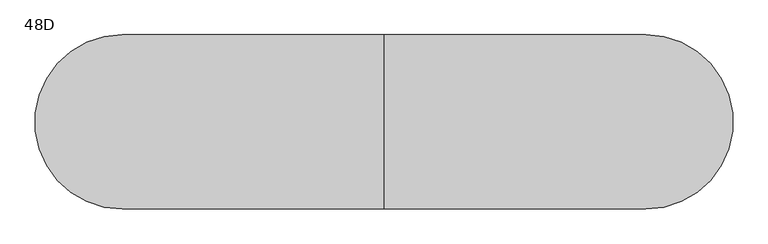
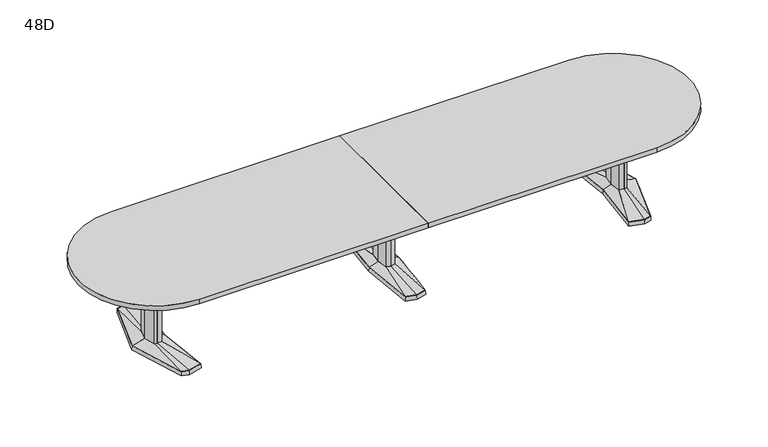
"""IFC4 building model written with IfcOpenShell, lengths in millimetres: furniture geometry, Coalesse_AM_Table_Conference_ETable2_Racetrack_16ft_AluminiumBase : 48D."""

from ifc_helpers import new_model, si_unit, point, frame, frame_2d, origin, place, context, project, spatial, polyline, circle_curve, trimmed, segment, composite_curve, outline, extrude, faceted_brep, source, transform, mapped, element, save
from ifc_brep_helpers import plane_surface, spline_surface, advanced_brep


def furniture_48d_51cb476e(model_context):
    return source(origin(), model_context, "Body", "SolidModel", [
        faceted_brep([(-81.2333791, -433.8053819, 38.1), (0.0, -455.556576, 38.1), (81.2333791, -433.8053819, 38.1), (119.0564774, 0.0, 38.1), (81.2333791, 433.8053819, 38.1), (0.0, 455.556576, 38.1), (-81.2333791, 433.8053819, 38.1), (-119.0564774, 0.0, 38.1), (-82.7182795, -435.0512063, 3.175), (-120.65, 0.0, 3.175), (-82.7182795, 435.0512063, 3.175), (0.0, 457.2, 3.175), (82.7182795, 435.0512063, 3.175), (120.65, 0.0, 3.175), (82.7182795, -435.0512063, 3.175), (0.0, -457.2, 3.175), (0.0, 429.2617927, 3.175), (-77.9676806, 408.3850278, 3.175), (-74.7019821, 382.9646737, 3.175), (0.0, 402.9670094, 3.175), (74.7019821, 382.9646737, 3.175), (77.9676806, 408.3850278, 3.175), (0.0, -429.2617927, 3.175), (77.9676806, -408.3850278, 3.175), (74.7019821, -382.9646737, 3.175), (0.0, -402.9670094, 3.175), (-74.7019821, -382.9646737, 3.175), (-77.9676806, -408.3850278, 3.175), (-71.8574262, 114.6326257, 3.175), (-82.5426076, 0.0, 3.175), (-71.8574262, -114.6326257, 3.175), (0.0, -133.8761372, 3.175), (71.8574262, -114.6326257, 3.175), (82.5426076, 0.0, 3.175), (71.8574262, 114.6326257, 3.175), (0.0, 133.8761372, 3.175), (0.0, 429.2617927, 0.0), (77.9676806, 408.3850278, 0.0), (74.7019821, 382.9646737, 0.0), (0.0, 402.9670094, 0.0), (-74.7019821, 382.9646737, 0.0), (-77.9676806, 408.3850278, 0.0), (0.0, -429.2617927, 0.0), (-77.9676806, -408.3850278, 0.0), (-74.7019821, -382.9646737, 0.0), (0.0, -402.9670094, 0.0), (74.7019821, -382.9646737, 0.0), (77.9676806, -408.3850278, 0.0), (-71.8574262, 114.6326257, 0.0), (0.0, 133.8761372, 0.0), (71.8574262, 114.6326257, 0.0), (82.5426076, 0.0, 0.0), (71.8574262, -114.6326257, 0.0), (0.0, -133.8761372, 0.0), (-71.8574262, -114.6326257, 0.0), (-82.5426076, 0.0, 0.0)], [[[0, 1, 2, 3, 4, 5, 6, 7]], [[8, 9, 10, 11, 12, 13, 14, 15], [16, 17, 18, 19, 20, 21], [22, 23, 24, 25, 26, 27], [28, 29, 30, 31, 32, 33, 34, 35]], [[1, 0, 8, 15]], [[2, 1, 15, 14]], [[3, 2, 14, 13]], [[4, 3, 13, 12]], [[5, 4, 12, 11]], [[6, 5, 11, 10]], [[7, 6, 10, 9]], [[0, 7, 9, 8]], [[36, 37, 38, 39, 40, 41]], [[42, 43, 44, 45, 46, 47]], [[48, 49, 50, 51, 52, 53, 54, 55]], [[36, 41, 17, 16]], [[41, 40, 18, 17]], [[40, 39, 19, 18]], [[39, 38, 20, 19]], [[38, 37, 21, 20]], [[37, 36, 16, 21]], [[42, 47, 23, 22]], [[47, 46, 24, 23]], [[46, 45, 25, 24]], [[45, 44, 26, 25]], [[44, 43, 27, 26]], [[43, 42, 22, 27]], [[48, 55, 29, 28]], [[55, 54, 30, 29]], [[54, 53, 31, 30]], [[53, 52, 32, 31]], [[52, 51, 33, 32]], [[51, 50, 34, 33]], [[50, 49, 35, 34]], [[49, 48, 28, 35]]]),
        faceted_brep([(-36.3832834, 84.6900825, 698.5), (-44.2774487, 0.0, 698.5), (-36.3832834, -84.6900825, 698.5), (0.0, -94.4335728, 698.5), (36.3832834, -84.6900825, 698.5), (44.2774487, 0.0, 698.5), (36.3832834, 84.6900825, 698.5), (0.0, 94.4335728, 698.5), (-36.3832834, 84.6900825, 63.5), (0.0, 94.4335728, 63.5), (36.3832834, 84.6900825, 63.5), (44.2774487, 0.0, 63.5), (36.3832834, -84.6900825, 63.5), (0.0, -94.4335728, 63.5), (-36.3832834, -84.6900825, 63.5), (-44.2774487, 0.0, 63.5)], [[[0, 1, 2, 3, 4, 5, 6, 7]], [[8, 9, 10, 11, 12, 13, 14, 15]], [[1, 0, 8, 15]], [[2, 1, 15, 14]], [[3, 2, 14, 13]], [[4, 3, 13, 12]], [[5, 4, 12, 11]], [[6, 5, 11, 10]], [[7, 6, 10, 9]], [[0, 7, 9, 8]]]),
        advanced_brep(
        [(-36.3832834, 84.6900825, 63.5), (-44.2774487, 0.0, 63.5), (-36.3832834, -84.6900825, 63.5), (0.0, -94.4335728, 63.5), (36.3832834, -84.6900825, 63.5), (44.2774487, 0.0, 63.5), (36.3832834, 84.6900825, 63.5), (0.0, 94.4335728, 63.5), (-81.2333791, 433.8053819, 38.1), (0.0, 455.556576, 38.1), (81.2333791, 433.8053819, 38.1), (119.0564774, 0.0, 38.1), (81.2333791, -433.8053819, 38.1), (0.0, -455.556576, 38.1), (-81.2333791, -433.8053819, 38.1), (-119.0564774, 0.0, 38.1)],
        [
            (0, 1),
            (1, 2),
            (2, 3),
            (3, 4),
            (4, 5),
            (5, 6),
            (6, 7),
            (7, 0),
            (8, 9),
            (9, 10),
            (10, 11),
            (11, 12),
            (12, 13),
            (13, 14),
            (14, 15),
            (15, 8),
            (15, 1),
            (0, 8),
            (14, 2),
            (13, 3),
            (12, 4),
            (11, 5),
            (10, 6),
            (9, 7),
        ],
        [
            plane_surface(frame((0.0, 0.0, 63.5), z_axis=(0.0, 0.0, 1.0000000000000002), x_axis=(-0.9659615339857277, -0.25868574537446, 0.0))),
            plane_surface(frame((0.0, 0.0, 38.1), z_axis=(0.0, 0.0, -1.0000000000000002), x_axis=(-0.9659615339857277, -0.25868574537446, 0.0))),
            spline_surface(1, 1, [[(-81.2333791, 433.8053819, 38.1), (-36.3832834, 84.6900825, 63.5)], [(-119.0564774, 0.0, 38.1), (-44.2774487, 0.0, 63.5)]], [2, 2], [2, 2], [0.0, 1.0], [0.0, 1.0]),
            spline_surface(1, 1, [[(-119.0564774, 0.0, 38.1), (-44.2774487, 0.0, 63.5)], [(-81.2333791, -433.8053819, 38.1), (-36.3832834, -84.6900825, 63.5)]], [2, 2], [2, 2], [0.0, 1.0], [0.0, 1.0]),
            spline_surface(1, 1, [[(-81.2333791, -433.8053819, 38.1), (-36.3832834, -84.6900825, 63.5)], [(0.0, -455.556576, 38.1), (0.0, -94.4335728, 63.5)]], [2, 2], [2, 2], [0.0, 1.0], [0.0, 1.0]),
            spline_surface(1, 1, [[(0.0, -455.556576, 38.1), (0.0, -94.4335728, 63.5)], [(81.2333791, -433.8053819, 38.1), (36.3832834, -84.6900825, 63.5)]], [2, 2], [2, 2], [0.0, 1.0], [0.0, 1.0]),
            spline_surface(1, 1, [[(81.2333791, -433.8053819, 38.1), (36.3832834, -84.6900825, 63.5)], [(119.0564774, 0.0, 38.1), (44.2774487, 0.0, 63.5)]], [2, 2], [2, 2], [0.0, 1.0], [0.0, 1.0]),
            spline_surface(1, 1, [[(119.0564774, 0.0, 38.1), (44.2774487, 0.0, 63.5)], [(81.2333791, 433.8053819, 38.1), (36.3832834, 84.6900825, 63.5)]], [2, 2], [2, 2], [0.0, 1.0], [0.0, 1.0]),
            spline_surface(1, 1, [[(81.2333791, 433.8053819, 38.1), (36.3832834, 84.6900825, 63.5)], [(0.0, 455.556576, 38.1), (0.0, 94.4335728, 63.5)]], [2, 2], [2, 2], [0.0, 1.0], [0.0, 1.0]),
            spline_surface(1, 1, [[(0.0, 455.556576, 38.1), (0.0, 94.4335728, 63.5)], [(-81.2333791, 433.8053819, 38.1), (-36.3832834, 84.6900825, 63.5)]], [2, 2], [2, 2], [0.0, 1.0], [0.0, 1.0]),
        ],
        [
            (0, [[1, 2, 3, 4, 5, 6, 7, 8]]),
            (1, [[9, 10, 11, 12, 13, 14, 15, 16]]),
            (2, [[-16, 17, -1, 18]]),
            (3, [[-15, 19, -2, -17]]),
            (4, [[-14, 20, -3, -19]]),
            (5, [[-13, 21, -4, -20]]),
            (6, [[-12, 22, -5, -21]]),
            (7, [[-11, 23, -6, -22]]),
            (8, [[-10, 24, -7, -23]]),
            (9, [[-9, -18, -8, -24]]),
        ],
    ),
        faceted_brep([(1820.2306835, 455.5848221, 38.1), (1710.6531277, 426.2263816, 38.1), (1751.8163717, 0.0, 38.1), (1710.6531277, -426.2263816, 38.1), (1820.2306835, -455.5848221, 38.1), (1876.3570396, -440.5478297, 38.1), (2013.6684269, 0.0, 38.1), (1876.3570396, 440.5478297, 38.1), (1820.2306754, 457.2283104, 3.175), (1877.6124472, 441.8549756, 3.175), (2015.33125, 0.0, 3.175), (1877.6124472, -441.8549756, 3.175), (1820.2306754, -457.2283104, 3.175), (1708.94375, -427.4118891, 3.175), (1750.2214856, 0.0, 3.175), (1708.94375, 427.4118891, 3.175), (1823.820115, 428.3273875, 3.175), (1718.7718228, 402.1057253, 3.175), (1726.890518, 377.985069, 3.175), (1827.4095466, 401.0699529, 3.175), (1877.9691725, 387.524361, 3.175), (1877.1631061, 414.0360954, 3.175), (1823.820115, -428.3273875, 3.175), (1877.1631061, -414.0360954, 3.175), (1877.9691725, -387.524361, 3.175), (1827.4095466, -401.0699529, 3.175), (1726.890518, -377.985069, 3.175), (1718.7718228, -402.1057253, 3.175), (1950.4153621, 0.0, 3.175), (1918.1459611, 120.4193755, 3.175), (1869.4987222, 133.471665, 3.175), (1789.6180526, 119.4176561, 3.175), (1778.4868466, 0.0, 3.175), (1789.6180526, -119.4176561, 3.175), (1869.4987222, -133.471665, 3.175), (1918.1459611, -120.4193755, 3.175), (1823.820115, 428.3273875, 0.0), (1877.1631061, 414.0360954, 0.0), (1877.9691725, 387.524361, 0.0), (1827.4095466, 401.0699529, 0.0), (1726.890518, 377.985069, 0.0), (1718.7718228, 402.1057253, 0.0), (1823.820115, -428.3273875, 0.0), (1718.7718228, -402.1057253, 0.0), (1726.890518, -377.985069, 0.0), (1827.4095466, -401.0699529, 0.0), (1877.9691725, -387.524361, 0.0), (1877.1631061, -414.0360954, 0.0), (1950.4153621, 0.0, 0.0), (1918.1459611, -120.4193755, 0.0), (1869.4987222, -133.471665, 0.0), (1789.6180526, -119.4176561, 0.0), (1778.4868466, 0.0, 0.0), (1789.6180526, 119.4176561, 0.0), (1869.4987222, 133.471665, 0.0), (1918.1459611, 120.4193755, 0.0)], [[[0, 1, 2, 3, 4, 5, 6, 7]], [[8, 9, 10, 11, 12, 13, 14, 15], [16, 17, 18, 19, 20, 21], [22, 23, 24, 25, 26, 27], [28, 29, 30, 31, 32, 33, 34, 35]], [[7, 9, 8, 0]], [[6, 10, 9, 7]], [[5, 11, 10, 6]], [[4, 12, 11, 5]], [[3, 13, 12, 4]], [[2, 14, 13, 3]], [[1, 15, 14, 2]], [[0, 8, 15, 1]], [[36, 37, 38, 39, 40, 41]], [[42, 43, 44, 45, 46, 47]], [[48, 49, 50, 51, 52, 53, 54, 55]], [[36, 16, 21, 37]], [[37, 21, 20, 38]], [[38, 20, 19, 39]], [[39, 19, 18, 40]], [[40, 18, 17, 41]], [[41, 17, 16, 36]], [[42, 22, 27, 43]], [[43, 27, 26, 44]], [[44, 26, 25, 45]], [[45, 25, 24, 46]], [[46, 24, 23, 47]], [[47, 23, 22, 42]], [[48, 28, 35, 49]], [[49, 35, 34, 50]], [[50, 34, 33, 51]], [[51, 33, 32, 52]], [[52, 32, 31, 53]], [[53, 31, 30, 54]], [[54, 30, 29, 55]], [[55, 29, 28, 48]]]),
        faceted_brep([(1910.9710836, 0.0, 698.5), (1887.0358546, 89.3188359, 698.5), (1870.1824984, 93.8406728, 698.5), (1867.7826511, 94.4845635, 698.5), (1824.855146, 86.9320037, 698.5), (1816.7520056, 0.0, 698.5), (1824.855146, -86.9320037, 698.5), (1867.7826511, -94.4845635, 698.5), (1870.1824984, -93.8406728, 698.5), (1887.0358546, -89.3188359, 698.5), (1910.9710836, 0.0, 63.5), (1887.0358546, -89.3188359, 63.5), (1870.1824984, -93.8406728, 63.5), (1867.7826511, -94.4845635, 63.5), (1824.855146, -86.9320037, 63.5), (1816.7520056, 0.0, 63.5), (1824.855146, 86.9320037, 63.5), (1867.7826511, 94.4845635, 63.5), (1870.1824984, 93.8406728, 63.5), (1887.0358546, 89.3188359, 63.5)], [[[0, 1, 2, 3, 4, 5, 6, 7, 8, 9]], [[10, 11, 12, 13, 14, 15, 16, 17, 18, 19]], [[9, 11, 10, 0]], [[8, 12, 11, 9]], [[7, 13, 12, 8]], [[6, 14, 13, 7]], [[5, 15, 14, 6]], [[4, 16, 15, 5]], [[3, 17, 16, 4]], [[2, 18, 17, 3]], [[1, 19, 18, 2]], [[0, 10, 19, 1]]]),
        advanced_brep(
        [(1867.7826511, 94.4845635, 63.5), (1824.855146, 86.9320037, 63.5), (1816.7520056, 0.0, 63.5), (1824.855146, -86.9320037, 63.5), (1867.7826511, -94.4845635, 63.5), (1887.0358546, -89.3188359, 63.5), (1910.9710836, 0.0, 63.5), (1887.0358546, 89.3188359, 63.5), (1820.2306835, 455.5848221, 38.1), (1876.3570396, 440.5478297, 38.1), (2013.6684269, 0.0, 38.1), (1876.3570396, -440.5478297, 38.1), (1820.2306835, -455.5848221, 38.1), (1710.6531277, -426.2263816, 38.1), (1751.8163717, 0.0, 38.1), (1710.6531277, 426.2263816, 38.1)],
        [
            (0, 1),
            (1, 2),
            (2, 3),
            (3, 4),
            (4, 5),
            (5, 6),
            (6, 7),
            (7, 0),
            (8, 9),
            (9, 10),
            (10, 11),
            (11, 12),
            (12, 13),
            (13, 14),
            (14, 15),
            (15, 8),
            (8, 0),
            (7, 9),
            (6, 10),
            (5, 11),
            (4, 12),
            (3, 13),
            (2, 14),
            (1, 15),
        ],
        [
            plane_surface(frame((1860.8837991, 0.0, 63.5), z_axis=(0.0, 0.0, 1.0), x_axis=(-0.25884244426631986, -0.9659195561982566, 0.0))),
            plane_surface(frame((1822.4958125, 0.0, 38.1), z_axis=(0.0, 0.0, -1.0), x_axis=(-0.25884244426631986, -0.9659195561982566, 0.0))),
            spline_surface(1, 1, [[(1820.2306835, 455.5848221, 38.1), (1876.3570396, 440.5478297, 38.1)], [(1867.7826511, 94.4845635, 63.5), (1887.0358546, 89.3188359, 63.5)]], [2, 2], [2, 2], [0.0, 1.0], [0.0, 1.0]),
            spline_surface(1, 1, [[(1876.3570396, 440.5478297, 38.1), (2013.6684269, 0.0, 38.1)], [(1887.0358546, 89.3188359, 63.5), (1910.9710836, 0.0, 63.5)]], [2, 2], [2, 2], [0.0, 1.0], [0.0, 1.0]),
            spline_surface(1, 1, [[(2013.6684269, 0.0, 38.1), (1876.3570396, -440.5478297, 38.1)], [(1910.9710836, 0.0, 63.5), (1887.0358546, -89.3188359, 63.5)]], [2, 2], [2, 2], [0.0, 1.0], [0.0, 1.0]),
            spline_surface(1, 1, [[(1876.3570396, -440.5478297, 38.1), (1820.2306835, -455.5848221, 38.1)], [(1887.0358546, -89.3188359, 63.5), (1867.7826511, -94.4845635, 63.5)]], [2, 2], [2, 2], [0.0, 1.0], [0.0, 1.0]),
            spline_surface(1, 1, [[(1820.2306835, -455.5848221, 38.1), (1710.6531277, -426.2263816, 38.1)], [(1867.7826511, -94.4845635, 63.5), (1824.855146, -86.9320037, 63.5)]], [2, 2], [2, 2], [0.0, 1.0], [0.0, 1.0]),
            spline_surface(1, 1, [[(1710.6531277, -426.2263816, 38.1), (1751.8163717, 0.0, 38.1)], [(1824.855146, -86.9320037, 63.5), (1816.7520056, 0.0, 63.5)]], [2, 2], [2, 2], [0.0, 1.0], [0.0, 1.0]),
            spline_surface(1, 1, [[(1751.8163717, 0.0, 38.1), (1710.6531277, 426.2263816, 38.1)], [(1816.7520056, 0.0, 63.5), (1824.855146, 86.9320037, 63.5)]], [2, 2], [2, 2], [0.0, 1.0], [0.0, 1.0]),
            spline_surface(1, 1, [[(1710.6531277, 426.2263816, 38.1), (1820.2306835, 455.5848221, 38.1)], [(1824.855146, 86.9320037, 63.5), (1867.7826511, 94.4845635, 63.5)]], [2, 2], [2, 2], [0.0, 1.0], [0.0, 1.0]),
        ],
        [
            (0, [[1, 2, 3, 4, 5, 6, 7, 8]]),
            (1, [[9, 10, 11, 12, 13, 14, 15, 16]]),
            (2, [[17, -8, 18, -9]]),
            (3, [[-18, -7, 19, -10]]),
            (4, [[-19, -6, 20, -11]]),
            (5, [[-20, -5, 21, -12]]),
            (6, [[-21, -4, 22, -13]]),
            (7, [[-22, -3, 23, -14]]),
            (8, [[-23, -2, 24, -15]]),
            (9, [[-24, -1, -17, -16]]),
        ],
    ),
        faceted_brep([(-1820.2306835, 455.5848221, 38.1), (-1876.3570396, 440.5478297, 38.1), (-2013.6684269, 0.0, 38.1), (-1876.3570396, -440.5478297, 38.1), (-1820.2306835, -455.5848221, 38.1), (-1710.6531277, -426.2263816, 38.1), (-1751.8163717, 0.0, 38.1), (-1710.6531277, 426.2263816, 38.1), (-1820.2306754, 457.2283104, 3.175), (-1708.94375, 427.4118891, 3.175), (-1750.2214856, 0.0, 3.175), (-1708.94375, -427.4118891, 3.175), (-1820.2306754, -457.2283104, 3.175), (-1877.6124472, -441.8549756, 3.175), (-2015.33125, 0.0, 3.175), (-1877.6124472, 441.8549756, 3.175), (-1823.820115, 428.3273875, 3.175), (-1877.1631061, 414.0360954, 3.175), (-1877.9691725, 387.524361, 3.175), (-1827.4095466, 401.0699529, 3.175), (-1726.890518, 377.985069, 3.175), (-1718.7718228, 402.1057253, 3.175), (-1823.820115, -428.3273875, 3.175), (-1718.7718228, -402.1057253, 3.175), (-1726.890518, -377.985069, 3.175), (-1827.4095466, -401.0699529, 3.175), (-1877.9691725, -387.524361, 3.175), (-1877.1631061, -414.0360954, 3.175), (-1950.4153621, 0.0, 3.175), (-1918.1459611, -120.4193755, 3.175), (-1869.4987222, -133.471665, 3.175), (-1789.6180526, -119.4176561, 3.175), (-1778.4868466, 0.0, 3.175), (-1789.6180526, 119.4176561, 3.175), (-1869.4987222, 133.471665, 3.175), (-1918.1459611, 120.4193755, 3.175), (-1823.820115, 428.3273875, 0.0), (-1718.7718228, 402.1057253, 0.0), (-1726.890518, 377.985069, 0.0), (-1827.4095466, 401.0699529, 0.0), (-1877.9691725, 387.524361, 0.0), (-1877.1631061, 414.0360954, 0.0), (-1823.820115, -428.3273875, 0.0), (-1877.1631061, -414.0360954, 0.0), (-1877.9691725, -387.524361, 0.0), (-1827.4095466, -401.0699529, 0.0), (-1726.890518, -377.985069, 0.0), (-1718.7718228, -402.1057253, 0.0), (-1950.4153621, 0.0, 0.0), (-1918.1459611, 120.4193755, 0.0), (-1869.4987222, 133.471665, 0.0), (-1789.6180526, 119.4176561, 0.0), (-1778.4868466, 0.0, 0.0), (-1789.6180526, -119.4176561, 0.0), (-1869.4987222, -133.471665, 0.0), (-1918.1459611, -120.4193755, 0.0)], [[[0, 1, 2, 3, 4, 5, 6, 7]], [[8, 9, 10, 11, 12, 13, 14, 15], [16, 17, 18, 19, 20, 21], [22, 23, 24, 25, 26, 27], [28, 29, 30, 31, 32, 33, 34, 35]], [[1, 0, 8, 15]], [[2, 1, 15, 14]], [[3, 2, 14, 13]], [[4, 3, 13, 12]], [[5, 4, 12, 11]], [[6, 5, 11, 10]], [[7, 6, 10, 9]], [[0, 7, 9, 8]], [[36, 37, 38, 39, 40, 41]], [[42, 43, 44, 45, 46, 47]], [[48, 49, 50, 51, 52, 53, 54, 55]], [[36, 41, 17, 16]], [[41, 40, 18, 17]], [[40, 39, 19, 18]], [[39, 38, 20, 19]], [[38, 37, 21, 20]], [[37, 36, 16, 21]], [[42, 47, 23, 22]], [[47, 46, 24, 23]], [[46, 45, 25, 24]], [[45, 44, 26, 25]], [[44, 43, 27, 26]], [[43, 42, 22, 27]], [[48, 55, 29, 28]], [[55, 54, 30, 29]], [[54, 53, 31, 30]], [[53, 52, 32, 31]], [[52, 51, 33, 32]], [[51, 50, 34, 33]], [[50, 49, 35, 34]], [[49, 48, 28, 35]]]),
        faceted_brep([(-1910.9710836, 0.0, 698.5), (-1887.0358546, -89.3188359, 698.5), (-1870.1824984, -93.8406728, 698.5), (-1867.7826511, -94.4845635, 698.5), (-1824.855146, -86.9320037, 698.5), (-1816.7520056, 0.0, 698.5), (-1824.855146, 86.9320037, 698.5), (-1867.7826511, 94.4845635, 698.5), (-1870.1824984, 93.8406728, 698.5), (-1887.0358546, 89.3188359, 698.5), (-1910.9710836, 0.0, 63.5), (-1887.0358546, 89.3188359, 63.5), (-1870.1824984, 93.8406728, 63.5), (-1867.7826511, 94.4845635, 63.5), (-1824.855146, 86.9320037, 63.5), (-1816.7520056, 0.0, 63.5), (-1824.855146, -86.9320037, 63.5), (-1867.7826511, -94.4845635, 63.5), (-1870.1824984, -93.8406728, 63.5), (-1887.0358546, -89.3188359, 63.5)], [[[0, 1, 2, 3, 4, 5, 6, 7, 8, 9]], [[10, 11, 12, 13, 14, 15, 16, 17, 18, 19]], [[1, 0, 10, 19]], [[2, 1, 19, 18]], [[3, 2, 18, 17]], [[4, 3, 17, 16]], [[5, 4, 16, 15]], [[6, 5, 15, 14]], [[7, 6, 14, 13]], [[8, 7, 13, 12]], [[9, 8, 12, 11]], [[0, 9, 11, 10]]]),
        advanced_brep(
        [(-1867.7826511, 94.4845635, 63.5), (-1887.0358546, 89.3188359, 63.5), (-1910.9710836, 0.0, 63.5), (-1887.0358546, -89.3188359, 63.5), (-1867.7826511, -94.4845635, 63.5), (-1824.855146, -86.9320037, 63.5), (-1816.7520056, 0.0, 63.5), (-1824.855146, 86.9320037, 63.5), (-1820.2306835, 455.5848221, 38.1), (-1710.6531277, 426.2263816, 38.1), (-1751.8163717, 0.0, 38.1), (-1710.6531277, -426.2263816, 38.1), (-1820.2306835, -455.5848221, 38.1), (-1876.3570396, -440.5478297, 38.1), (-2013.6684269, 0.0, 38.1), (-1876.3570396, 440.5478297, 38.1)],
        [
            (0, 1),
            (1, 2),
            (2, 3),
            (3, 4),
            (4, 5),
            (5, 6),
            (6, 7),
            (7, 0),
            (8, 9),
            (9, 10),
            (10, 11),
            (11, 12),
            (12, 13),
            (13, 14),
            (14, 15),
            (15, 8),
            (15, 1),
            (0, 8),
            (14, 2),
            (13, 3),
            (12, 4),
            (11, 5),
            (10, 6),
            (9, 7),
        ],
        [
            plane_surface(frame((-1860.8837991, 0.0, 63.5), z_axis=(0.0, 0.0, 1.0), x_axis=(0.25884244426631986, -0.9659195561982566, 0.0))),
            plane_surface(frame((-1822.4958125, 0.0, 38.1), z_axis=(0.0, 0.0, -1.0), x_axis=(0.25884244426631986, -0.9659195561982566, 0.0))),
            spline_surface(1, 1, [[(-1820.2306835, 455.5848221, 38.1), (-1867.7826511, 94.4845635, 63.5)], [(-1876.3570396, 440.5478297, 38.1), (-1887.0358546, 89.3188359, 63.5)]], [2, 2], [2, 2], [0.0, 1.0], [0.0, 1.0]),
            spline_surface(1, 1, [[(-1876.3570396, 440.5478297, 38.1), (-1887.0358546, 89.3188359, 63.5)], [(-2013.6684269, 0.0, 38.1), (-1910.9710836, 0.0, 63.5)]], [2, 2], [2, 2], [0.0, 1.0], [0.0, 1.0]),
            spline_surface(1, 1, [[(-2013.6684269, 0.0, 38.1), (-1910.9710836, 0.0, 63.5)], [(-1876.3570396, -440.5478297, 38.1), (-1887.0358546, -89.3188359, 63.5)]], [2, 2], [2, 2], [0.0, 1.0], [0.0, 1.0]),
            spline_surface(1, 1, [[(-1876.3570396, -440.5478297, 38.1), (-1887.0358546, -89.3188359, 63.5)], [(-1820.2306835, -455.5848221, 38.1), (-1867.7826511, -94.4845635, 63.5)]], [2, 2], [2, 2], [0.0, 1.0], [0.0, 1.0]),
            spline_surface(1, 1, [[(-1820.2306835, -455.5848221, 38.1), (-1867.7826511, -94.4845635, 63.5)], [(-1710.6531277, -426.2263816, 38.1), (-1824.855146, -86.9320037, 63.5)]], [2, 2], [2, 2], [0.0, 1.0], [0.0, 1.0]),
            spline_surface(1, 1, [[(-1710.6531277, -426.2263816, 38.1), (-1824.855146, -86.9320037, 63.5)], [(-1751.8163717, 0.0, 38.1), (-1816.7520056, 0.0, 63.5)]], [2, 2], [2, 2], [0.0, 1.0], [0.0, 1.0]),
            spline_surface(1, 1, [[(-1751.8163717, 0.0, 38.1), (-1816.7520056, 0.0, 63.5)], [(-1710.6531277, 426.2263816, 38.1), (-1824.855146, 86.9320037, 63.5)]], [2, 2], [2, 2], [0.0, 1.0], [0.0, 1.0]),
            spline_surface(1, 1, [[(-1710.6531277, 426.2263816, 38.1), (-1824.855146, 86.9320037, 63.5)], [(-1820.2306835, 455.5848221, 38.1), (-1867.7826511, 94.4845635, 63.5)]], [2, 2], [2, 2], [0.0, 1.0], [0.0, 1.0]),
        ],
        [
            (0, [[1, 2, 3, 4, 5, 6, 7, 8]]),
            (1, [[9, 10, 11, 12, 13, 14, 15, 16]]),
            (2, [[-16, 17, -1, 18]]),
            (3, [[-15, 19, -2, -17]]),
            (4, [[-14, 20, -3, -19]]),
            (5, [[-13, 21, -4, -20]]),
            (6, [[-12, 22, -5, -21]]),
            (7, [[-11, 23, -6, -22]]),
            (8, [[-10, 24, -7, -23]]),
            (9, [[-9, -18, -8, -24]]),
        ],
    ),
        extrude(outline(polyline([(96.8375, 698.5), (103.1875, 698.5), (103.1875, 476.25), (-103.1875, 476.25), (-103.1875, 698.5), (-96.8375, 698.5), (-96.8375, 482.6), (96.8375, 482.6), (96.8375, 698.5)])), frame((44.2774487, 0.0, 0.0), z_axis=(1.0, 0.0, 0.0), x_axis=(0.0, 1.0, 0.0)), (0.0, 0.0, 1.0), 1772.6163013),
        extrude(outline(composite_curve([segment(trimmed(circle_curve(frame_2d((1828.8, 0.0)), 609.6), [point((1828.8, 609.6))], [point((1828.8, -609.6))], False, "CARTESIAN"), True, "CONTINUOUS"), segment(polyline([(1828.8, -609.6), (0.0, -609.6), (0.0, 609.6), (1828.8, 609.6)]), True, "CONTINUOUS")], self_intersect=False)), frame((0.0, 0.0, 698.5), z_axis=(0.0, 0.0, 1.0), x_axis=(1.0, 0.0, 0.0)), (0.0, 0.0, 1.0), 38.1),
        extrude(outline(composite_curve([segment(polyline([(0.0, 609.6), (0.0, -609.6), (-1828.8, -609.6)]), True, "CONTINUOUS"), segment(trimmed(circle_curve(frame_2d((-1828.8, 0.0)), 609.6), [point((-1828.8, -609.6))], [point((-1828.8, 609.6))], False, "CARTESIAN"), True, "CONTINUOUS"), segment(polyline([(-1828.8, 609.6), (0.0, 609.6)]), True, "CONTINUOUS")], self_intersect=False)), frame((0.0, 0.0, 698.5), z_axis=(0.0, 0.0, 1.0), x_axis=(1.0, 0.0, 0.0)), (0.0, 0.0, 1.0), 38.1),
        extrude(outline(polyline([(96.8375, 698.5), (103.1875, 698.5), (103.1875, 476.25), (-103.1875, 476.25), (-103.1875, 698.5), (-96.8375, 698.5), (-96.8375, 482.6), (96.8375, 482.6), (96.8375, 698.5)])), frame((-1816.89375, 0.0, 0.0), z_axis=(1.0, 0.0, 0.0), x_axis=(0.0, 1.0, 0.0)), (0.0, 0.0, 1.0), 1772.6163013),
    ])


if __name__ == "__main__":
    model = new_model("IFC4")
    model_context = context("Model", 3, world=origin())
    ifc_project = project(units=[si_unit("LENGTHUNIT", "METRE", prefix="MILLI")], contexts=[model_context])
    site = spatial("IfcSite", under=ifc_project)
    building = spatial("IfcBuilding", under=site)
    placement = place(None, origin())
    furniture_48d_shape = furniture_48d_51cb476e(model_context)
    element("IfcFurniture", 1, ObjectType="Coalesse_AM_Table_Conference_ETable2_Racetrack_16ft_AluminiumBase : 48D", at=placement, inside=building, context=model_context, shape_type="MappedRepresentation", body=[
        mapped(furniture_48d_shape, transform((0.0, 0.0, 0.0), x_axis=(1.0, 0.0, 0.0), y_axis=(0.0, 1.0, 0.0), z_axis=(0.0, 0.0, 1.0))),
    ])
    save(model, "model.ifc")
